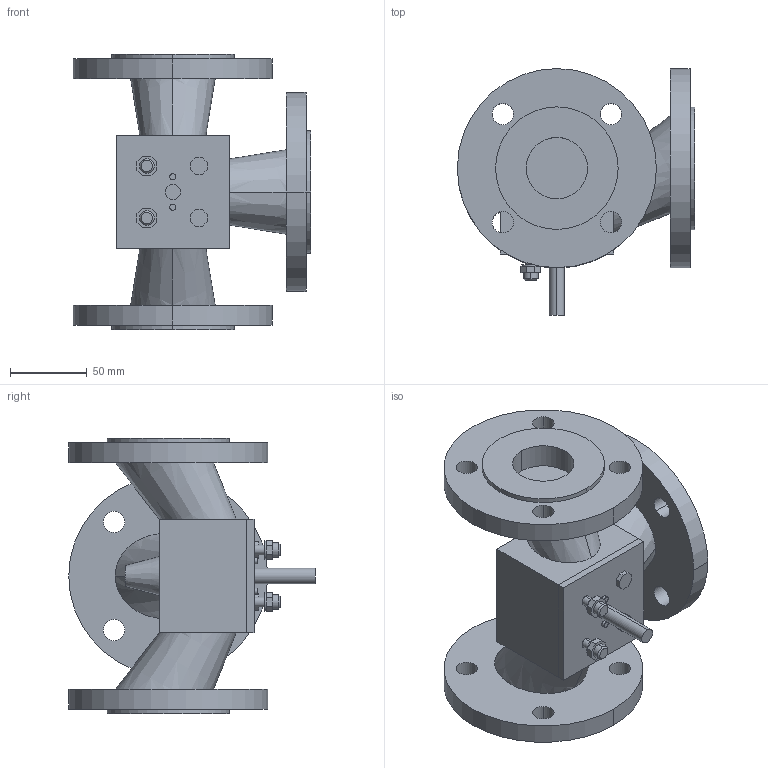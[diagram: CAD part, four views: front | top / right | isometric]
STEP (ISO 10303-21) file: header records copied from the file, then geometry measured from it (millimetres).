
FILE_DESCRIPTION((''),'2;1');
FILE_NAME('KL000050.dwg.stp','2006-10-04T11:31:44',(''),(''),'Mechanical Desktop 2006','Mechanical Desktop 2006',', , ');
FILE_SCHEMA(('AUTOMOTIVE_DESIGN { 1 2 10303 214 0 1 1 1 }'));
Length unit declared in the file: millimetre
Products named in the file (1): Product
Bounding box: 155 x 161 x 180 mm (x, y, z)
Volume: 1077681.9 mm3; surface area: 179974.8 mm2
Topology: 22 solids, 22 shells, 159 faces, 332 edges, 220 vertices
Faces by surface type: plane 59, cylinder 52, bspline 38, cone 10
Entity records: 4509 total; most frequent: CARTESIAN_POINT 966, DIRECTION 716, ORIENTED_EDGE 664, EDGE_CURVE 332, AXIS2_PLACEMENT_3D 262, VERTEX_POINT 220, VECTOR 192, LINE 192
